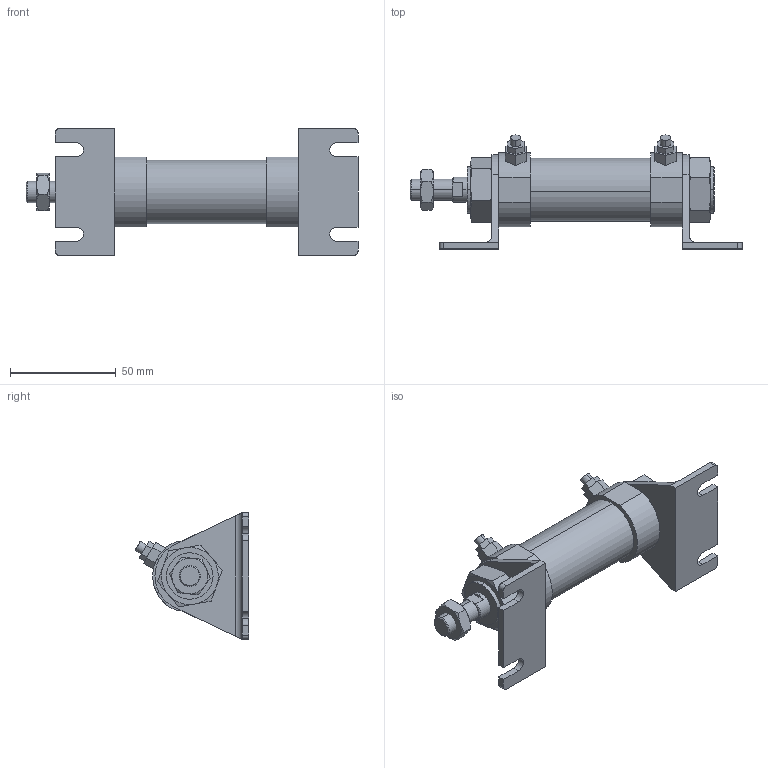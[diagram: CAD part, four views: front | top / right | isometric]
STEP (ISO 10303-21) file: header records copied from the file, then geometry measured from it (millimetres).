
FILE_DESCRIPTION (( 'STEP AP203' ), '1' );
FILE_NAME ('JG2-25-25-L.STEP', '2016-04-19T00:48:20', ( '' ), ( '' ), 'SwSTEP 2.0', 'SolidWorks 2014', '' );
FILE_SCHEMA (( 'CONFIG_CONTROL_DESIGN' ));
Length unit declared in the file: millimetre
Products named in the file (7): JG2-25A; M22x1.5-10mm; 25-25; J#2-25-L; M10x1.5-6mm; JG2-25B; JG2-25-25-L
Assembly tree (8 placements, depth 2):
  JG2-25-25-L
    JG2-25B
    25-25
    JG2-25A
    M10x1.5-6mm
    J#2-25-L  x2
    M22x1.5-10mm  x2
Bounding box: 157.2 x 53.93 x 60 mm (x, y, z)
Volume: 106972.7 mm3; surface area: 36247.2 mm2
Topology: 8 solids, 8 shells, 211 faces, 494 edges, 310 vertices
Faces by surface type: plane 107, cylinder 54, torus 36, cone 14
Entity records: 5713 total; most frequent: CARTESIAN_POINT 1260, DIRECTION 776, ORIENTED_EDGE 744, EDGE_CURVE 372, AXIS2_PLACEMENT_3D 296, VERTEX_POINT 236, LINE 184, VECTOR 184
